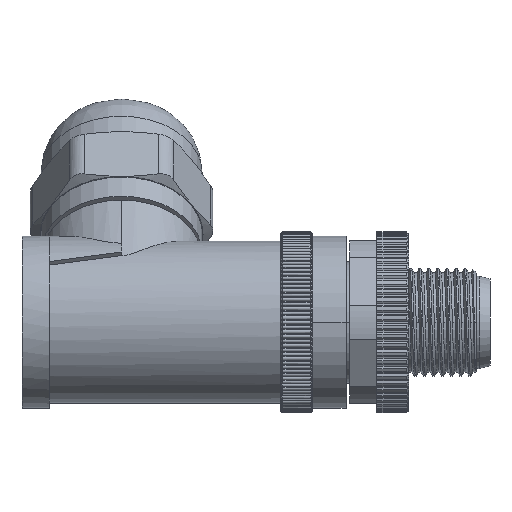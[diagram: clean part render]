
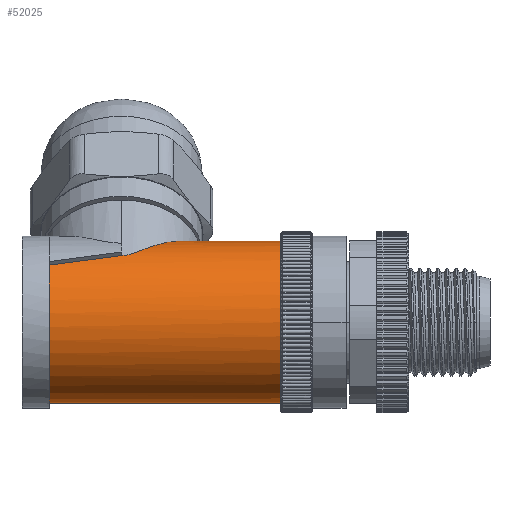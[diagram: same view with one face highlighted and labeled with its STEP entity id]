
A CAD part, left-side view. The second image highlights one B-rep face of the part: STEP entity #52025.
In plain terms, the highlighted cylindrical face has radius 8.95 mm (diameter 17.9 mm), a partial arc.
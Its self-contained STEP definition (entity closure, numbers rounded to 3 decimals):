
#11346=CARTESIAN_POINT('',(0.,16.385,
8.95));
#12261=CARTESIAN_POINT('',(0.,4.9,0.));
#12262=DIRECTION('',(0.,-1.,0.));
#12263=DIRECTION('',(0.,0.,1.));
#12264=AXIS2_PLACEMENT_3D('',#12261,#12262,#12263);
#12266=DIRECTION('',(0.,-1.,0.));
#12267=VECTOR('',#12266,25.6);
#12268=CARTESIAN_POINT('',(0.,30.5,-8.95));
#12269=LINE('',#12268,#12267);
#12270=CARTESIAN_POINT('',(0.,30.5,0.));
#12271=DIRECTION('',(0.,1.,0.));
#12272=DIRECTION('',(0.,0.,-1.));
#12273=AXIS2_PLACEMENT_3D('',#12270,#12271,#12272);
#12275=CARTESIAN_POINT('',(-5.069,22.5,7.376));
#12276=CARTESIAN_POINT('',(-5.524,25.166,
7.063));
#12277=CARTESIAN_POINT('',(-5.944,27.832,
6.713));
#12278=CARTESIAN_POINT('',(-6.329,30.5,6.329));
#12280=CARTESIAN_POINT('',(-5.069,22.5,7.376));
#12281=CARTESIAN_POINT('',(-5.069,22.31,
7.376));
#12282=CARTESIAN_POINT('',(-5.012,21.924,
7.416));
#12283=CARTESIAN_POINT('',(-4.762,21.322,
7.581));
#12284=CARTESIAN_POINT('',(-4.398,20.717,
7.8));
#12285=CARTESIAN_POINT('',(-3.939,20.091,
8.043));
#12286=CARTESIAN_POINT('',(-3.387,19.434,
8.293));
#12287=CARTESIAN_POINT('',(-2.737,18.738,
8.532));
#12288=CARTESIAN_POINT('',(-1.974,17.997,
8.743));
#12289=CARTESIAN_POINT('',(-1.081,17.214,
8.902));
#12290=CARTESIAN_POINT('',(-0.379,16.662,
8.95));
#12291=CARTESIAN_POINT('',(0.,16.385,
8.95));
#12293=DIRECTION('',(0.,-1.,0.));
#12294=VECTOR('',#12293,11.485);
#12295=CARTESIAN_POINT('',(0.,16.385,
8.95));
#12296=LINE('',#12295,#12294);
#38371=VERTEX_POINT('',#11346);
#38378=CARTESIAN_POINT('',(-6.329,30.5,6.329));
#38379=VERTEX_POINT('',#38378);
#38385=CARTESIAN_POINT('',(-5.069,22.5,7.376));
#38387=VERTEX_POINT('',#38385);
#38392=CARTESIAN_POINT('',(0.,30.5,-8.95));
#38393=VERTEX_POINT('',#38392);
#42165=CARTESIAN_POINT('',(0.,4.9,-8.95));
#42166=VERTEX_POINT('',#42165);
#42167=CARTESIAN_POINT('',(0.,4.9,8.95));
#42168=VERTEX_POINT('',#42167);
#52009=CARTESIAN_POINT('',(0.,33.5,0.));
#52010=DIRECTION('',(0.,-1.,0.));
#52011=DIRECTION('',(0.,0.,-1.));
#52012=AXIS2_PLACEMENT_3D('',#52009,#52010,#52011);
#52013=CYLINDRICAL_SURFACE('',#52012,8.95);
#52014=ORIENTED_EDGE('',*,*,#49635,.T.);
#52015=ORIENTED_EDGE('',*,*,#50975,.F.);
#52017=ORIENTED_EDGE('',*,*,#52016,.T.);
#52019=ORIENTED_EDGE('',*,*,#52018,.F.);
#52021=ORIENTED_EDGE('',*,*,#52020,.T.);
#52022=ORIENTED_EDGE('',*,*,#50965,.T.);
#52023=EDGE_LOOP('',(#52014,#52015,#52017,#52019,#52021,#52022));
#52024=FACE_OUTER_BOUND('',#52023,.F.);
#52025=ADVANCED_FACE('',(#52024),#52013,.T.);
#12265=CIRCLE('',#12264,8.95);
#12274=CIRCLE('',#12273,8.95);
#12279=B_SPLINE_CURVE_WITH_KNOTS('',3,(#12275,#12276,#12277,#12278),
.UNSPECIFIED.,.F.,.F.,(4,4),(0.,1.),.UNSPECIFIED.);
#12292=B_SPLINE_CURVE_WITH_KNOTS('',3,(#12280,#12281,#12282,#12283,#12284,
#12285,#12286,#12287,#12288,#12289,#12290,#12291),.UNSPECIFIED.,.F.,.F.,(4,1,1,
1,1,1,1,1,1,4),(0.,0.111,0.222,0.333,
0.444,0.556,0.667,0.778,
0.889,1.),.UNSPECIFIED.);
#49635=EDGE_CURVE('',#42168,#42166,#12265,.T.);
#50965=EDGE_CURVE('',#38371,#42168,#12296,.T.);
#50975=EDGE_CURVE('',#38393,#42166,#12269,.T.);
#52016=EDGE_CURVE('',#38393,#38379,#12274,.T.);
#52018=EDGE_CURVE('',#38387,#38379,#12279,.T.);
#52020=EDGE_CURVE('',#38387,#38371,#12292,.T.);
